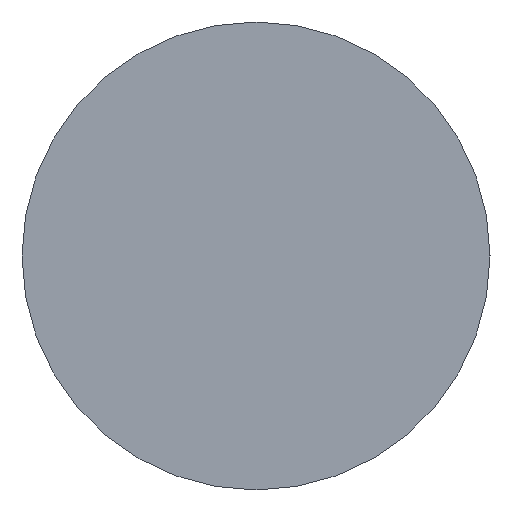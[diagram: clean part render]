
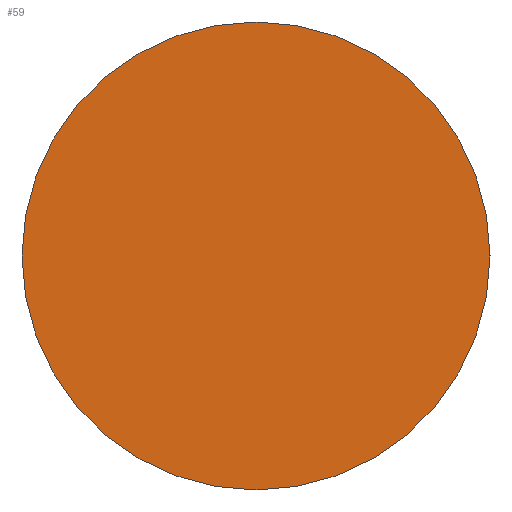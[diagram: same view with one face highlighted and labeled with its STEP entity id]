
A CAD part, left-side view. The second image highlights one B-rep face of the part: STEP entity #59.
In plain terms, the highlighted planar face has unit normal (-1, 0, 0).
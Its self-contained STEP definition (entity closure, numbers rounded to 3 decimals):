
#31 = VERTEX_POINT('',#32);
#32 = CARTESIAN_POINT('',(-15.24,0.,0.25));
#38 = EDGE_CURVE('',#31,#31,#39,.T.);
#39 = CIRCLE('',#40,0.25);
#40 = AXIS2_PLACEMENT_3D('',#41,#42,#43);
#41 = CARTESIAN_POINT('',(-15.24,0.,0.));
#42 = DIRECTION('',(1.,0.,0.));
#43 = DIRECTION('',(-0.,0.,1.));
#59 = ADVANCED_FACE('',(#60),#63,.F.);
#60 = FACE_BOUND('',#61,.T.);
#61 = EDGE_LOOP('',(#62));
#62 = ORIENTED_EDGE('',*,*,#38,.F.);
#63 = PLANE('',#64);
#64 = AXIS2_PLACEMENT_3D('',#65,#66,#67);
#65 = CARTESIAN_POINT('',(-15.24,0.,0.));
#66 = DIRECTION('',(1.,0.,0.));
#67 = DIRECTION('',(-0.,0.,1.));
